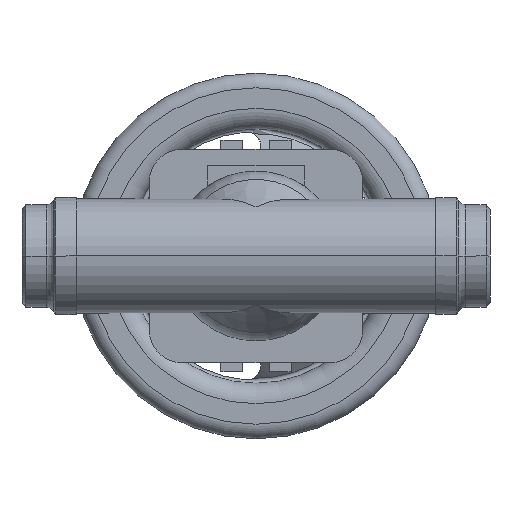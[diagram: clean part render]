
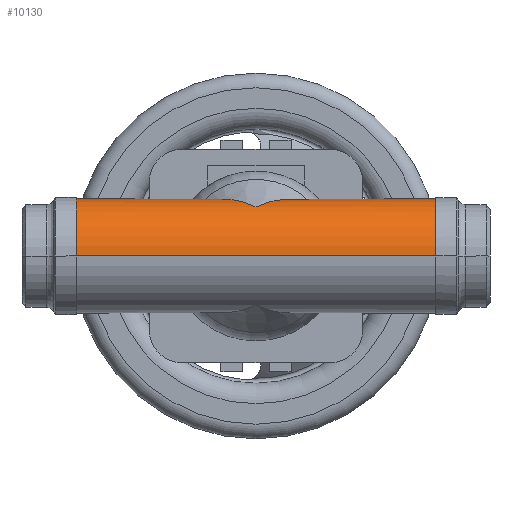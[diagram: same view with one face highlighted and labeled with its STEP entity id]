
A CAD part, front view. The second image highlights one B-rep face of the part: STEP entity #10130.
In plain terms, the highlighted cylindrical face has radius 19.5 mm (diameter 39 mm), a partial arc.
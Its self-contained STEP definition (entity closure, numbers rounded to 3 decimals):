
#590=CARTESIAN_POINT('',(80.,0.,0.));
#600=DIRECTION('',(1.,0.,0.));
#610=DIRECTION('',(0.,1.,0.));
#620=AXIS2_PLACEMENT_3D('',#590,#600,#610);
#630=CYLINDRICAL_SURFACE('',#620,19.5);
#1470=CARTESIAN_POINT('',(91.565,0.,0.));
#1480=DIRECTION('',(-0.652,0.758,
0.));
#1490=DIRECTION('',(0.758,0.652,
0.));
#1500=AXIS2_PLACEMENT_3D('',#1470,#1480,#1490);
#1510=ELLIPSE('',#1500,29.904,19.5);
#1520=CARTESIAN_POINT('',(80.,-9.947,16.772));
#1530=VERTEX_POINT('',#1520);
#1540=CARTESIAN_POINT('',(98.486,5.952,
18.569));
#1550=VERTEX_POINT('',#1540);
#1560=EDGE_CURVE('',#1530,#1550,#1510,.T.);
#1580=CARTESIAN_POINT('',(68.435,0.,0.));
#1590=DIRECTION('',(0.652,0.758,
0.));
#1600=DIRECTION('',(-0.758,0.652,
0.));
#1610=AXIS2_PLACEMENT_3D('',#1580,#1590,#1600);
#1620=ELLIPSE('',#1610,29.904,19.5);
#1630=CARTESIAN_POINT('',(61.514,5.952,
18.569));
#1640=VERTEX_POINT('',#1630);
#1650=EDGE_CURVE('',#1640,#1530,#1620,.T.);
#7280=CARTESIAN_POINT('',(80.,33.402,0.));
#7290=DIRECTION('',(0.,1.,0.));
#7300=DIRECTION('',(0.,0.,1.));
#7310=AXIS2_PLACEMENT_3D('',#7280,#7290,#7300);
#7320=CYLINDRICAL_SURFACE('',#7310,29.);
#7330=CARTESIAN_POINT('',(80.,0.,0.));
#7340=DIRECTION('',(1.,0.,0.));
#7350=DIRECTION('',(0.,1.,0.));
#7360=AXIS2_PLACEMENT_3D('',#7330,#7340,#7350);
#7370=CYLINDRICAL_SURFACE('',#7360,19.5);
#7380=CARTESIAN_POINT('',(53.135,16.155,
10.921));
#7390=CARTESIAN_POINT('',(52.819,16.681,
10.143));
#7400=CARTESIAN_POINT('',(52.527,17.15,
9.329));
#7410=CARTESIAN_POINT('',(52.265,17.564,
8.471));
#7420=CARTESIAN_POINT('',(52.002,17.978,
7.612));
#7430=CARTESIAN_POINT('',(51.771,18.334,
6.712));
#7440=CARTESIAN_POINT('',(51.583,18.622,
5.784));
#7450=CARTESIAN_POINT('',(51.394,18.91,
4.857));
#7460=CARTESIAN_POINT('',(51.248,19.13,
3.906));
#7470=CARTESIAN_POINT('',(51.149,19.278,
2.937));
#7480=CARTESIAN_POINT('',(51.05,19.425,
1.968));
#7490=CARTESIAN_POINT('',(51.,19.5,0.984));
#7500=CARTESIAN_POINT('',(51.,19.5,0.));
#7510=B_SPLINE_CURVE_WITH_KNOTS('',3,(#7380,#7390,#7400,#7410,#7420,
#7430,#7440,#7450,#7460,#7470,#7480,#7490,#7500),.UNSPECIFIED.,.F.,.F.,(
4,3,3,3,4),(0.,2.961,5.93,8.888,
11.841),.UNSPECIFIED.);
#7520=SURFACE_CURVE('',#7510,(#7320,#7370),.CURVE_3D.);
#7530=CARTESIAN_POINT('',(53.135,16.155,
10.921));
#7540=VERTEX_POINT('',#7530);
#7550=CARTESIAN_POINT('',(51.,19.5,0.));
#7560=VERTEX_POINT('',#7550);
#7570=EDGE_CURVE('',#7540,#7560,#7520,.T.);
#8720=CARTESIAN_POINT('',(80.,16.155,0.));
#8730=DIRECTION('',(0.,-1.,0.));
#8740=DIRECTION('',(-1.,0.,0.));
#8750=AXIS2_PLACEMENT_3D('',#8720,#8730,#8740);
#8760=DEGENERATE_TOROIDAL_SURFACE('',#8750,9.,
20.,.T.);
#8770=CARTESIAN_POINT('',(80.,16.155,0.));
#8780=DIRECTION('',(0.,-1.,0.));
#8790=DIRECTION('',(-1.,0.,0.));
#8800=AXIS2_PLACEMENT_3D('',#8770,#8780,#8790);
#8810=DEGENERATE_TOROIDAL_SURFACE('',#8800,9.,
20.,.T.);
#8820=CARTESIAN_POINT('',(53.135,16.155,
10.921));
#8830=CARTESIAN_POINT('',(53.553,15.46,
11.949));
#8840=CARTESIAN_POINT('',(54.041,14.685,
12.882));
#8850=CARTESIAN_POINT('',(54.597,13.863,
13.713));
#8860=CARTESIAN_POINT('',(55.155,13.039,
14.547));
#8870=CARTESIAN_POINT('',(55.788,12.158,
15.286));
#8880=CARTESIAN_POINT('',(56.493,11.259,
15.921));
#8890=CARTESIAN_POINT('',(57.198,10.36,
16.557));
#8900=CARTESIAN_POINT('',(57.967,9.451,
17.086));
#8910=CARTESIAN_POINT('',(58.801,8.56,
17.521));
#8920=CARTESIAN_POINT('',(59.638,7.667,
17.957));
#8930=CARTESIAN_POINT('',(60.545,6.786,
18.302));
#8940=CARTESIAN_POINT('',(61.514,5.952,
18.569));
#8950=B_SPLINE_CURVE_WITH_KNOTS('',3,(#8820,#8830,#8840,#8850,#8860,
#8870,#8880,#8890,#8900,#8910,#8920,#8930,#8940),.UNSPECIFIED.,.F.,.F.,(
4,3,3,3,4),(0.,3.904,7.816,11.716,
15.627),.UNSPECIFIED.);
#8960=SURFACE_CURVE('',#8950,(#7370,#8810),.CURVE_3D.);
#8970=EDGE_CURVE('',#7540,#1640,#8960,.T.);
#9240=CARTESIAN_POINT('',(104.85,13.063,
14.478));
#9250=VERTEX_POINT('',#9240);
#9280=CARTESIAN_POINT('',(104.85,13.063,
14.478));
#9290=CARTESIAN_POINT('',(104.445,12.491,
14.994));
#9300=CARTESIAN_POINT('',(104.007,11.897,
15.468));
#9310=CARTESIAN_POINT('',(103.536,11.295,
15.896));
#9320=CARTESIAN_POINT('',(103.064,10.693,
16.324));
#9330=CARTESIAN_POINT('',(102.561,10.082,
16.706));
#9340=CARTESIAN_POINT('',(102.028,9.475,
17.043));
#9350=CARTESIAN_POINT('',(101.495,8.868,
17.381));
#9360=CARTESIAN_POINT('',(100.933,8.266,
17.673));
#9370=CARTESIAN_POINT('',(100.345,7.679,
17.925));
#9380=CARTESIAN_POINT('',(99.756,7.09,
18.177));
#9390=CARTESIAN_POINT('',(99.136,6.511,
18.39));
#9400=CARTESIAN_POINT('',(98.486,5.952,
18.569));
#9410=B_SPLINE_CURVE_WITH_KNOTS('',3,(#9280,#9290,#9300,#9310,#9320,
#9330,#9340,#9350,#9360,#9370,#9380,#9390,#9400),.UNSPECIFIED.,.F.,.F.,(
4,3,3,3,4),(0.,2.621,5.251,7.866,
10.486),.UNSPECIFIED.);
#9420=SURFACE_CURVE('',#9410,(#8760,#7370),.CURVE_3D.);
#9430=EDGE_CURVE('',#9250,#1550,#9420,.T.);
#9560=CARTESIAN_POINT('',(80.,-19.5,0.));
#9570=DIRECTION('',(1.,0.,0.));
#9580=VECTOR('',#9570,1.);
#9590=LINE('',#9560,#9580);
#9600=CARTESIAN_POINT('',(18.58,-19.5,0.));
#9610=VERTEX_POINT('',#9600);
#9620=CARTESIAN_POINT('',(141.42,-19.5,0.));
#9630=VERTEX_POINT('',#9620);
#9640=EDGE_CURVE('',#9610,#9630,#9590,.T.);
#9650=ORIENTED_EDGE('',*,*,#9640,.T.);
#9660=CARTESIAN_POINT('',(18.58,0.,0.));
#9670=DIRECTION('',(-1.,0.,0.));
#9680=DIRECTION('',(0.,1.,0.));
#9690=AXIS2_PLACEMENT_3D('',#9660,#9670,#9680);
#9700=CIRCLE('',#9690,19.5);
#9710=CARTESIAN_POINT('',(18.58,19.5,0.));
#9720=VERTEX_POINT('',#9710);
#9730=EDGE_CURVE('',#9610,#9720,#9700,.T.);
#9740=ORIENTED_EDGE('',*,*,#9730,.F.);
#9750=CARTESIAN_POINT('',(80.,19.5,0.));
#9760=DIRECTION('',(1.,0.,0.));
#9770=VECTOR('',#9760,1.);
#9780=LINE('',#9750,#9770);
#9790=EDGE_CURVE('',#9720,#7560,#9780,.T.);
#9800=ORIENTED_EDGE('',*,*,#9790,.F.);
#9810=ORIENTED_EDGE('',*,*,#7570,.T.);
#9820=ORIENTED_EDGE('',*,*,#8970,.F.);
#9830=ORIENTED_EDGE('',*,*,#1650,.F.);
#9840=ORIENTED_EDGE('',*,*,#1560,.F.);
#9850=ORIENTED_EDGE('',*,*,#9430,.T.);
#9860=CARTESIAN_POINT('',(132.863,0.,0.));
#9870=DIRECTION('',(-0.423,-0.906,0.));
#9880=DIRECTION('',(0.906,-0.423,
0.));
#9890=AXIS2_PLACEMENT_3D('',#9860,#9870,#9880);
#9900=ELLIPSE('',#9890,46.141,19.5);
#9910=CARTESIAN_POINT('',(132.863,0.,19.5));
#9920=VERTEX_POINT('',#9910);
#9930=EDGE_CURVE('',#9920,#9250,#9900,.T.);
#9940=ORIENTED_EDGE('',*,*,#9930,.T.);
#9950=CARTESIAN_POINT('',(132.863,0.,0.));
#9960=DIRECTION('',(0.906,-0.423,0.));
#9970=DIRECTION('',(0.423,0.906,
0.));
#9980=AXIS2_PLACEMENT_3D('',#9950,#9960,#9970);
#9990=ELLIPSE('',#9980,21.516,19.5);
#10000=CARTESIAN_POINT('',(141.42,18.35,6.598));
#10010=VERTEX_POINT('',#10000);
#10020=EDGE_CURVE('',#10010,#9920,#9990,.T.);
#10030=ORIENTED_EDGE('',*,*,#10020,.T.);
#10040=CARTESIAN_POINT('',(141.42,0.,0.));
#10050=DIRECTION('',(-1.,0.,0.));
#10060=DIRECTION('',(0.,1.,0.));
#10070=AXIS2_PLACEMENT_3D('',#10040,#10050,#10060);
#10080=CIRCLE('',#10070,19.5);
#10090=EDGE_CURVE('',#9630,#10010,#10080,.T.);
#10100=ORIENTED_EDGE('',*,*,#10090,.T.);
#10110=EDGE_LOOP('',(#10100,#10030,#9940,#9850,#9840,#9830,#9820,#9810,
#9800,#9740,#9650));
#10120=FACE_OUTER_BOUND('',#10110,.T.);
#10130=ADVANCED_FACE('',(#10120),#630,.T.);
